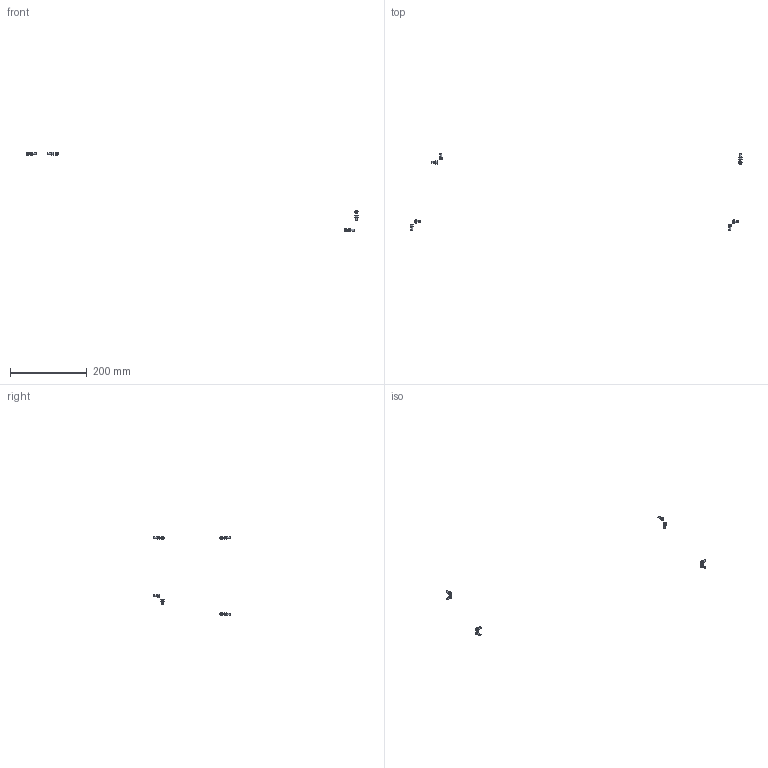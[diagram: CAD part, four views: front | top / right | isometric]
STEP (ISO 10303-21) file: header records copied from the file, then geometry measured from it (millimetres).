
FILE_DESCRIPTION(/* description */ (''),/* implementation_level */ '2;1');
FILE_NAME(/* name */ '3.frame-top#3.6#CB5-10',/* time_stamp */ '2014-12-01T20:12:19+01:00',/* author */ (''),/* organization */ (''),/* preprocessor_version */ 'ST-DEVELOPER v14',/* originating_system */ '',/* authorisation */ '');
FILE_SCHEMA (('AUTOMOTIVE_DESIGN'));
Length unit declared in the file: millimetre
Products named in the file (2): Document; screw DIN912-like, M5x10
Assembly tree (6 placements, depth 2):
  Document
    screw DIN912-like, M5x10  x6
Bounding box: 866.49 x 201 x 208.5 mm (x, y, z)
Volume: 3507.1 mm3; surface area: 3410.7 mm2
Topology: 8 solids, 8 shells, 200 faces, 448 edges, 264 vertices
Faces by surface type: plane 120, bspline 80
Entity records: 4157 total; most frequent: CARTESIAN_POINT 1893, B_SPLINE_CURVE_WITH_KNOTS 378, ORIENTED_EDGE 324, PCURVE 324, DEFINITIONAL_REPRESENTATION 324, SURFACE_CURVE 162, EDGE_CURVE 162, VERTEX_POINT 99
